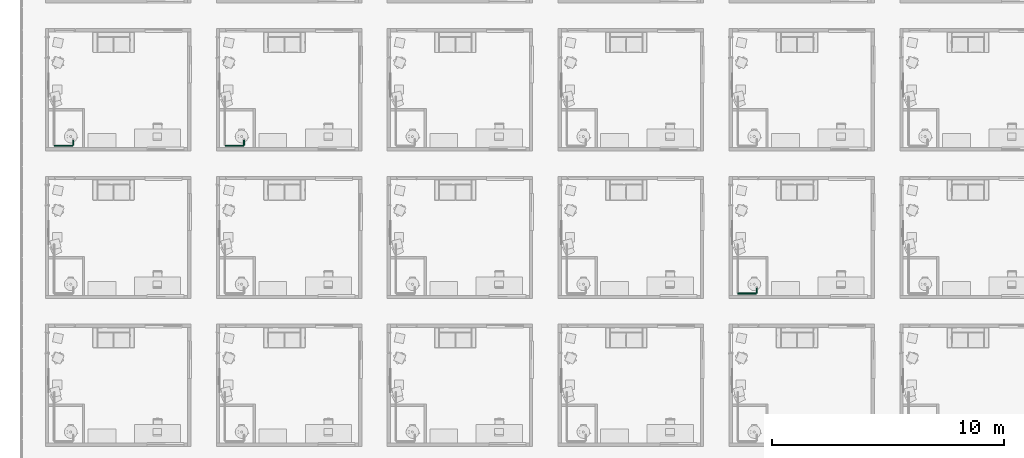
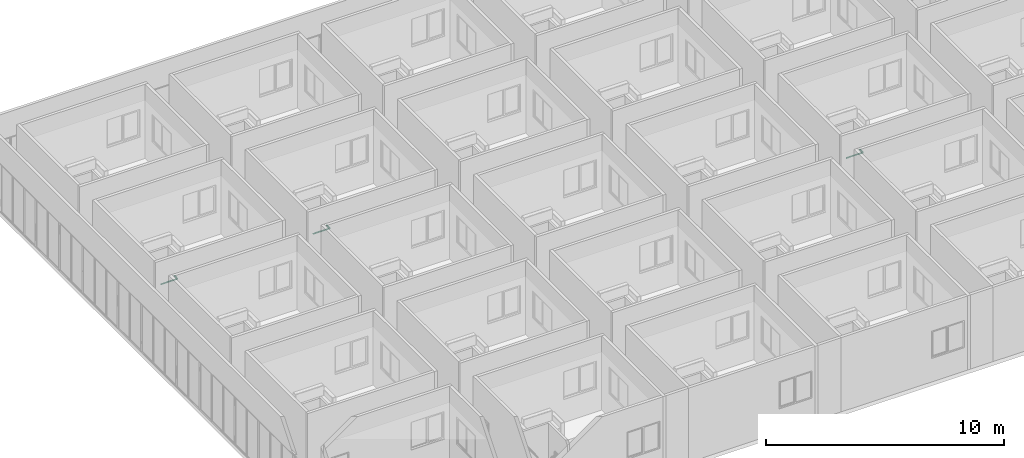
# One storey, part 47 of 72: 6 pipe segments.
"""IFC4 building model written with IfcOpenShell, lengths in centimetres."""

from ifc_helpers import new_model, entity, si_unit, converted_unit, derived_unit, direction, frame, origin, place, context, subcontext, project, spatial, arc, indexed_curve, outline, extrude, type_object, element, save


model = new_model("IFC4")

# Units and contexts
model_context = context("Model", 3, precision=0.001, world=origin(), true_north=direction((6.123233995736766e-17, 1.0)))
body_context = subcontext(model_context, "Body", "Model", "MODEL_VIEW")
ifc_project = project(units=[si_unit("LENGTHUNIT", "METRE", prefix="CENTI"), si_unit("AREAUNIT", "SQUARE_METRE"), si_unit("VOLUMEUNIT", "CUBIC_METRE"), derived_unit("THERMALTRANSMITTANCEUNIT", [(si_unit("MASSUNIT", "GRAM", prefix="KILO"), 1), (si_unit("THERMODYNAMICTEMPERATUREUNIT", "KELVIN"), -1), (si_unit("TIMEUNIT", "SECOND"), -3)]), converted_unit("PLANEANGLEUNIT", "DEGREE", entity("IfcPlaneAngleMeasure", 0.017453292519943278), si_unit("PLANEANGLEUNIT", "RADIAN"), dimensions=[0, 0, 0, 0, 0, 0, 0]), derived_unit("MASSDENSITYUNIT", [(si_unit("MASSUNIT", "GRAM", prefix="KILO"), 1), (si_unit("LENGTHUNIT", "METRE"), -3)]), derived_unit("VAPORPERMEABILITYUNIT", [(si_unit("LENGTHUNIT", "METRE"), -1), (si_unit("TIMEUNIT", "SECOND"), 1)]), derived_unit("USERDEFINED", [(si_unit("MASSUNIT", "GRAM", prefix="KILO"), 1), (si_unit("TIMEUNIT", "SECOND"), -3), (si_unit("LENGTHUNIT", "METRE"), 3), (si_unit("ELECTRICCURRENTUNIT", "AMPERE"), -2)]), derived_unit("SPECIFICHEATCAPACITYUNIT", [(si_unit("THERMODYNAMICTEMPERATUREUNIT", "KELVIN"), -1), (si_unit("LENGTHUNIT", "METRE"), 2), (si_unit("TIMEUNIT", "SECOND"), -2)]), derived_unit("THERMALCONDUCTANCEUNIT", [(si_unit("MASSUNIT", "GRAM", prefix="KILO"), 1), (si_unit("THERMODYNAMICTEMPERATUREUNIT", "KELVIN"), -1), (si_unit("TIMEUNIT", "SECOND"), -3), (si_unit("LENGTHUNIT", "METRE"), 1)]), si_unit("PRESSUREUNIT", "PASCAL"), derived_unit("MODULUSOFELASTICITYUNIT", [(si_unit("MASSUNIT", "GRAM", prefix="KILO"), 1), (si_unit("LENGTHUNIT", "METRE"), -1), (si_unit("TIMEUNIT", "SECOND"), -2)]), derived_unit("THERMALEXPANSIONCOEFFICIENTUNIT", [(si_unit("THERMODYNAMICTEMPERATUREUNIT", "KELVIN"), -1)])], contexts=[model_context])

# Site, building, storey
site_placement = place(None, origin())
site = spatial("IfcSite", under=ifc_project, at=site_placement, Name="Default", CompositionType="ELEMENT")
building_placement = place(site_placement, origin())
building = spatial("IfcBuilding", under=site, at=building_placement, Name="IDS Escape Game Building", CompositionType="ELEMENT")
storey_placement = place(building_placement, frame((0.0, 0.0, 800.0)))
storey = spatial("IfcBuildingStorey", under=building, at=storey_placement, Name="02_Second Floor", CompositionType="ELEMENT", Elevation=800.0)

# Pipe segments
pipe_segment_type = type_object("IfcPipeSegmentType", Name="Pipe Types:Piping Aluminum", PredefinedType="NOTDEFINED")
pipe_segment_1_placement = place(storey_placement, origin())
element("IfcPipeSegment", 1, at=pipe_segment_1_placement, inside=storey, type_object=pipe_segment_type, Name="Pipe Types:Piping Aluminum", ObjectType="Pipe Types:Piping Aluminum", PredefinedType="NOTDEFINED", context=body_context, shape_type="SweptSolid", body=[
    extrude(outline(indexed_curve([(2.412999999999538, -2.165734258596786e-13), (1.7062486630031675, 1.7062486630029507), (4.331468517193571e-13, 2.4130000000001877), (-1.706248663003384, 1.7062486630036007), (-2.4130000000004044, -2.165734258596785e-13), (-1.7062486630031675, -1.706248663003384), (4.3314685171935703e-13, -2.4129999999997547), (1.7062486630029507, -1.7062486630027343)], segments=[arc(1, 2, 3), arc(3, 4, 5), arc(5, 6, 7), arc(7, 8, 1)], self_intersect=False)), frame((2983.146716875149, 1297.2648279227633, 242.0), z_axis=(1.0, 0.0, 0.0), x_axis=(0.0, 1.0, 0.0)), (0.0, 0.0, 1.0), 79.90328312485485),
])
pipe_segment_2_placement = place(storey_placement, origin())
element("IfcPipeSegment", 2, at=pipe_segment_2_placement, inside=storey, type_object=pipe_segment_type, Name="Pipe Types:Piping Aluminum", ObjectType="Pipe Types:Piping Aluminum", PredefinedType="NOTDEFINED", context=body_context, shape_type="SweptSolid", body=[
    extrude(outline(indexed_curve([(2.4129999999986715, 0.0), (1.7062486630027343, 1.7062486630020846), (1.7325874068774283e-12, 2.412999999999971), (-1.7062486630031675, 1.7062486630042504), (-2.413000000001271, 0.0), (-1.7062486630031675, -1.7062486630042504), (1.7325874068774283e-12, -2.412999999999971), (1.7062486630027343, -1.7062486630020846)], segments=[arc(1, 2, 3), arc(3, 4, 5), arc(5, 6, 7), arc(7, 8, 1)], self_intersect=False)), frame((3064.1500000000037, 1298.3648279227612, 242.0), z_axis=(0.0, 1.0, 0.0), x_axis=(-1.0, 0.0, 0.0)), (0.0, 0.0, 1.0), 25.43517207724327),
])
pipe_segment_3_placement = place(storey_placement, origin())
element("IfcPipeSegment", 3, at=pipe_segment_3_placement, inside=storey, type_object=pipe_segment_type, Name="Pipe Types:Piping Aluminum", ObjectType="Pipe Types:Piping Aluminum", PredefinedType="NOTDEFINED", context=body_context, shape_type="SweptSolid", body=[
    extrude(outline(indexed_curve([(2.412999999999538, -2.165734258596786e-13), (1.7062486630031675, 1.7062486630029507), (4.331468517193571e-13, 2.4130000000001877), (-1.706248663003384, 1.7062486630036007), (-2.4130000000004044, -2.165734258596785e-13), (-1.7062486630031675, -1.706248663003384), (4.3314685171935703e-13, -2.4129999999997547), (1.7062486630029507, -1.7062486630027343)], segments=[arc(1, 2, 3), arc(3, 4, 5), arc(5, 6, 7), arc(7, 8, 1)], self_intersect=False)), frame((31.14671687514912, 1935.2648279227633, 242.0), z_axis=(1.0, 0.0, 0.0), x_axis=(0.0, 1.0, 0.0)), (0.0, 0.0, 1.0), 79.9032831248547),
])
pipe_segment_4_placement = place(storey_placement, origin())
element("IfcPipeSegment", 4, at=pipe_segment_4_placement, inside=storey, type_object=pipe_segment_type, Name="Pipe Types:Piping Aluminum", ObjectType="Pipe Types:Piping Aluminum", PredefinedType="NOTDEFINED", context=body_context, shape_type="SweptSolid", body=[
    extrude(outline(indexed_curve([(2.412999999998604, 0.0), (1.7062486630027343, 1.7062486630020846), (1.3941914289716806e-12, 2.412999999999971), (-1.7062486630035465, 1.7062486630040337), (-2.4130000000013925, 0.0), (-1.70624866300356, -1.7062486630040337), (1.3806555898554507e-12, -2.412999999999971), (1.7062486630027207, -1.7062486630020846)], segments=[arc(1, 2, 3), arc(3, 4, 5), arc(5, 6, 7), arc(7, 8, 1)], self_intersect=False)), frame((112.15000000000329, 1936.3648279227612, 242.0), z_axis=(0.0, 1.0, 0.0), x_axis=(-1.0, 0.0, 0.0)), (0.0, 0.0, 1.0), 25.43517207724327),
])
pipe_segment_5_placement = place(storey_placement, origin())
element("IfcPipeSegment", 5, at=pipe_segment_5_placement, inside=storey, type_object=pipe_segment_type, Name="Pipe Types:Piping Aluminum", ObjectType="Pipe Types:Piping Aluminum", PredefinedType="NOTDEFINED", context=body_context, shape_type="SweptSolid", body=[
    extrude(outline(indexed_curve([(2.412999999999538, -2.165734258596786e-13), (1.7062486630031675, 1.7062486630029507), (4.331468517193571e-13, 2.4130000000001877), (-1.706248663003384, 1.7062486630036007), (-2.4130000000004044, -2.165734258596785e-13), (-1.7062486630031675, -1.706248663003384), (4.3314685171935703e-13, -2.4129999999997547), (1.7062486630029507, -1.7062486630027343)], segments=[arc(1, 2, 3), arc(3, 4, 5), arc(5, 6, 7), arc(7, 8, 1)], self_intersect=False)), frame((769.1467168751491, 1935.264827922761, 242.0), z_axis=(1.0, 0.0, 0.0), x_axis=(0.0, 1.0, 0.0)), (0.0, 0.0, 1.0), 79.90328312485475),
])
pipe_segment_6_placement = place(storey_placement, origin())
element("IfcPipeSegment", 6, at=pipe_segment_6_placement, inside=storey, type_object=pipe_segment_type, Name="Pipe Types:Piping Aluminum", ObjectType="Pipe Types:Piping Aluminum", PredefinedType="NOTDEFINED", context=body_context, shape_type="SweptSolid", body=[
    extrude(outline(indexed_curve([(2.4129999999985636, 0.0), (1.7062486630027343, 1.7062486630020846), (1.4077272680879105e-12, 2.412999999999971), (-1.7062486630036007, 1.7062486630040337), (-2.4130000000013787, 0.0), (-1.7062486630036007, -1.7062486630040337), (1.4077272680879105e-12, -2.412999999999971), (1.7062486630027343, -1.7062486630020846)], segments=[arc(1, 2, 3), arc(3, 4, 5), arc(5, 6, 7), arc(7, 8, 1)], self_intersect=False)), frame((850.1500000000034, 1936.364827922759, 242.0), z_axis=(0.0, 1.0, 0.0), x_axis=(-1.0, 0.0, 0.0)), (0.0, 0.0, 1.0), 25.435172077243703),
])

save(model, "model.ifc")
